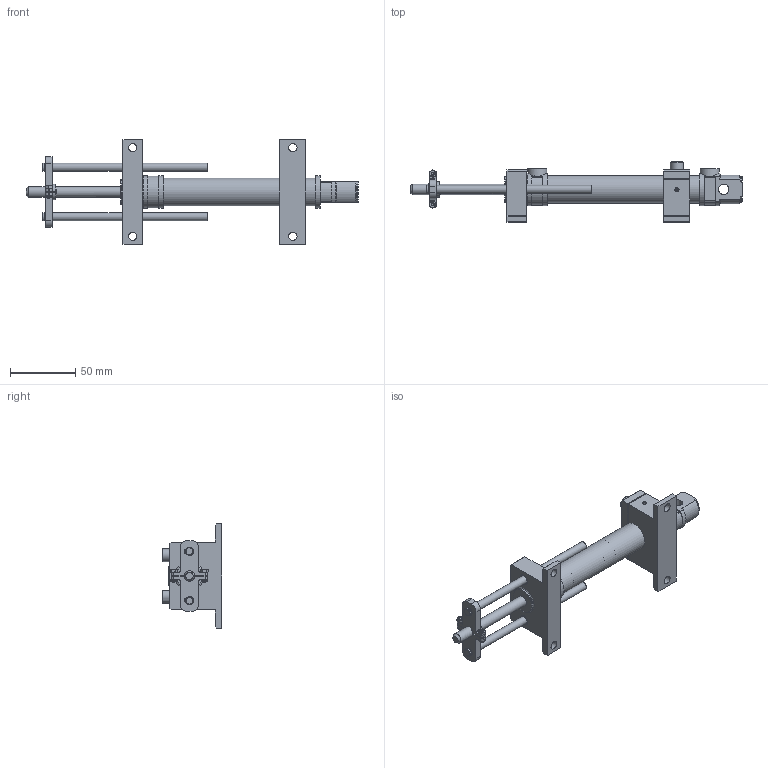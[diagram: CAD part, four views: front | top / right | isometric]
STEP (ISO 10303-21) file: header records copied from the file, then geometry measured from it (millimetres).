
FILE_DESCRIPTION(/* description */ ('Mini-cylinders series ISO 6432 series TP-'),/* implementation_level */ '2;1');
FILE_NAME(/* name */ 'cilindro_guidato2.stp',/* time_stamp */ '2024-11-27T19:58:19+01:00',/* author */ ('R5800u'),/* organization */ ('METALWORK'),/* preprocessor_version */ 'ST-DEVELOPER v20',/* originating_system */ 'Autodesk Inventor 2025',/* authorisation */ '');
FILE_SCHEMA (('AUTOMOTIVE_DESIGN { 1 0 10303 214 3 1 1 }'));
Length unit declared in the file: millimetre
Products named in the file (17): 1103200080CP/0-0-0-A-0-0; ISO_6432_TP_DI20-110-HF; ISO_6432_TP_DI20-110-80-BR; ISO_6432_TP_DI20-110-HR; ISO_6432_TP_DI20-110-PR; ISO_6432_TP_DI20-11080-R; ISO_6432_TP_DI20-110-PF; anello_stelo; AS 1427 - M2,5 x 8; AS 1112 - M2,5  Tipo 5; appoggio_cilindro_magazzino copy; AS 1420 - 1973 - M6 x 12; AS 1421 - M3 x 5 Punta a coppa; supporto2; barra_circolare_6mm; Bush GB/T 18324 C 6 X 8 X 6; ASME B18.27.1 NA1 - 7/32
Assembly tree (26 placements, depth 2):
  1103200080CP/0-0-0-A-0-0
    ISO_6432_TP_DI20-110-HF
    ISO_6432_TP_DI20-110-80-BR
    ISO_6432_TP_DI20-110-HR
    ISO_6432_TP_DI20-110-PR
    ISO_6432_TP_DI20-11080-R
    ISO_6432_TP_DI20-110-PF
    anello_stelo
    AS 1427 - M2,5 x 8  x2
    AS 1112 - M2,5  Tipo 5  x2
    appoggio_cilindro_magazzino copy
    AS 1420 - 1973 - M6 x 12  x2
    AS 1421 - M3 x 5 Punta a coppa
    supporto2
    barra_circolare_6mm  x2
    Bush GB/T 18324 C 6 X 8 X 6  x4
    ASME B18.27.1 NA1 - 7/32  x4
Bounding box: 254.91 x 46 x 80 mm (x, y, z)
Volume: 120483.1 mm3; surface area: 64687.7 mm2
Topology: 28 solids, 28 shells, 486 faces, 1178 edges, 771 vertices
Faces by surface type: plane 237, cylinder 140, cone 87, torus 20, sphere 2
Full cylindrical faces by diameter (mm): 0.66 x8, 1.946 x2, 2.013 x2, 2.224 x2, 2.459 x1, 2.5 x2, 2.9 x4, 3 x1, 4.917 x4, 5 x4, 6 x14, 6.4 x4, 6.6 x2, 7.2 x1, 8 x10, 8.566 x2, 10 x2, 14.88 x2, 19.8 x1, 20 x4, 21.27 x1, 22 x2, 25 x2
Entity records: 10954 total; most frequent: CARTESIAN_POINT 2192, DIRECTION 1773, ORIENTED_EDGE 1612, EDGE_CURVE 806, AXIS2_PLACEMENT_3D 674, VERTEX_POINT 532, LINE 425, VECTOR 425
